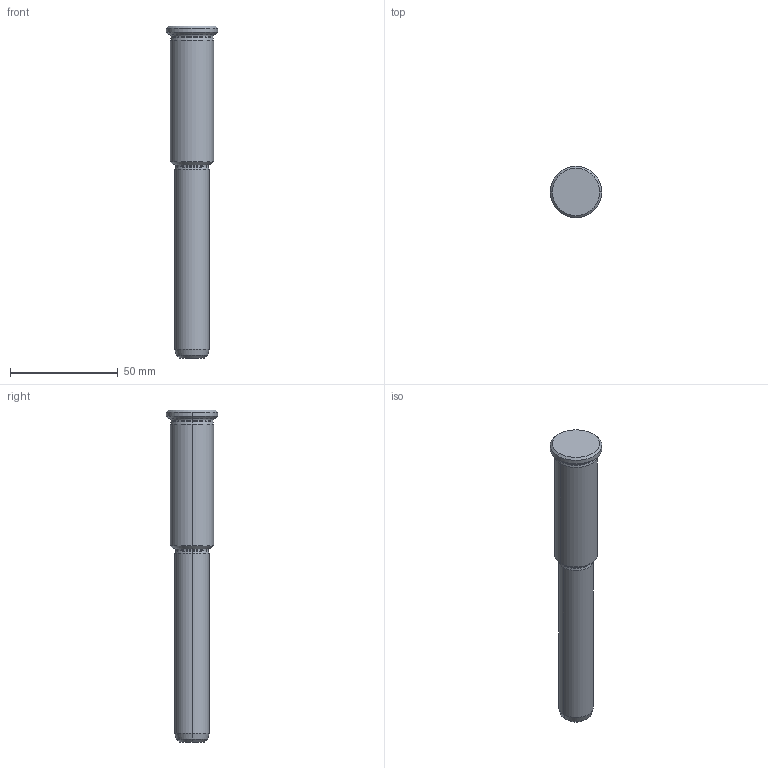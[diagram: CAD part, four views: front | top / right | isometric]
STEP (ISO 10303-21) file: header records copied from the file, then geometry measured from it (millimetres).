
FILE_DESCRIPTION (( 'STEP AP214' ), '1' );
FILE_NAME ('BRGC 16x64x90.STEP', '2019-12-19T10:00:08', ( 'August' ), ( '' ), 'SwSTEP 2.0', 'SolidWorks 2018', '' );
FILE_SCHEMA (( 'AUTOMOTIVE_DESIGN' ));
Length unit declared in the file: millimetre
Products named in the file (1): BRGC 16x64x90
Bounding box: 24 x 24 x 154 mm (x, y, z)
Volume: 38469.8 mm3; surface area: 9284 mm2
Topology: 1 solids, 1 shells, 36 faces, 70 edges, 38 vertices
Faces by surface type: cone 14, cylinder 10, torus 8, plane 4
Entity records: 946 total; most frequent: DIRECTION 190, CARTESIAN_POINT 145, ORIENTED_EDGE 140, AXIS2_PLACEMENT_3D 83, EDGE_CURVE 70, CIRCLE 46, VERTEX_POINT 38, EDGE_LOOP 38
